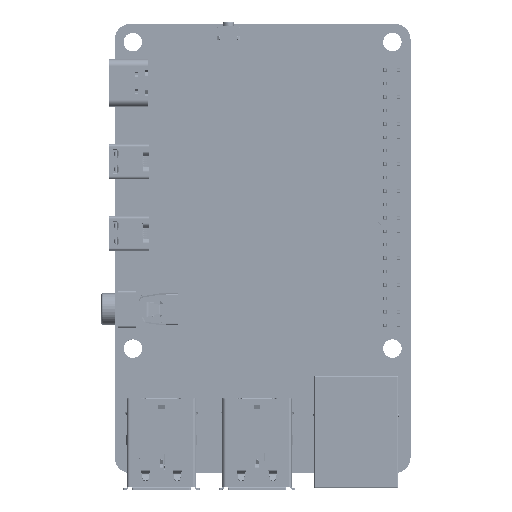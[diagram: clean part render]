
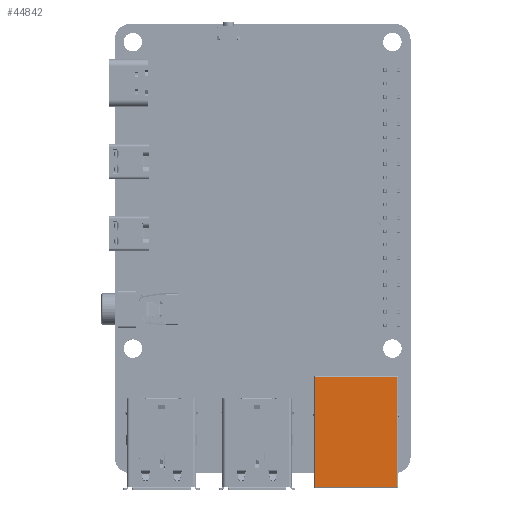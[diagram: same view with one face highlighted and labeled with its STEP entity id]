
A CAD part, top view. The second image highlights one B-rep face of the part: STEP entity #44842.
In plain terms, the highlighted planar face has unit normal (0, 0, 1) as drawn and (0, 1, 0) by its records, which use the part's own axes.
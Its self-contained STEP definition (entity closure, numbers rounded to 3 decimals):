
#40156 = CYLINDRICAL_SURFACE('',#40157,0.23);
#40157 = AXIS2_PLACEMENT_3D('',#40158,#40159,#40160);
#40158 = CARTESIAN_POINT('',(-29.272,6.42,0.23));
#40159 = DIRECTION('',(1.,0.,0.));
#40160 = DIRECTION('',(0.,0.,-1.));
#44032 = CYLINDRICAL_SURFACE('',#44033,0.23);
#44033 = AXIS2_PLACEMENT_3D('',#44034,#44035,#44036);
#44034 = CARTESIAN_POINT('',(-7.735,6.42,48.952));
#44035 = DIRECTION('',(0.,0.,-1.));
#44036 = DIRECTION('',(-1.,0.,0.));
#44638 = VERTEX_POINT('',#44639);
#44639 = CARTESIAN_POINT('',(-7.735,6.65,21.02));
#44688 = EDGE_CURVE('',#44689,#44638,#44691,.T.);
#44689 = VERTEX_POINT('',#44690);
#44690 = CARTESIAN_POINT('',(-7.735,6.65,0.23));
#44691 = SURFACE_CURVE('',#44692,(#44696,#44703),.PCURVE_S1.);
#44692 = LINE('',#44693,#44694);
#44693 = CARTESIAN_POINT('',(-7.735,6.65,0.23));
#44694 = VECTOR('',#44695,1.);
#44695 = DIRECTION('',(0.,0.,1.));
#44696 = PCURVE('',#44032,#44697);
#44697 = DEFINITIONAL_REPRESENTATION('',(#44698),#44702);
#44698 = LINE('',#44699,#44700);
#44699 = CARTESIAN_POINT('',(1.571,48.722));
#44700 = VECTOR('',#44701,1.);
#44701 = DIRECTION('',(0.,-1.));
#44702 = ( GEOMETRIC_REPRESENTATION_CONTEXT(2) 
PARAMETRIC_REPRESENTATION_CONTEXT() REPRESENTATION_CONTEXT('2D SPACE',''
  ) );
#44703 = PCURVE('',#44704,#44709);
#44704 = PLANE('',#44705);
#44705 = AXIS2_PLACEMENT_3D('',#44706,#44707,#44708);
#44706 = CARTESIAN_POINT('',(7.965,6.65,0.));
#44707 = DIRECTION('',(0.,1.,0.));
#44708 = DIRECTION('',(-1.,0.,0.));
#44709 = DEFINITIONAL_REPRESENTATION('',(#44710),#44714);
#44710 = LINE('',#44711,#44712);
#44711 = CARTESIAN_POINT('',(15.7,0.23));
#44712 = VECTOR('',#44713,1.);
#44713 = DIRECTION('',(0.,1.));
#44714 = ( GEOMETRIC_REPRESENTATION_CONTEXT(2) 
PARAMETRIC_REPRESENTATION_CONTEXT() REPRESENTATION_CONTEXT('2D SPACE',''
  ) );
#44792 = VERTEX_POINT('',#44793);
#44793 = CARTESIAN_POINT('',(7.735,6.65,0.23));
#44822 = EDGE_CURVE('',#44792,#44689,#44823,.T.);
#44823 = SURFACE_CURVE('',#44824,(#44828,#44835),.PCURVE_S1.);
#44824 = LINE('',#44825,#44826);
#44825 = CARTESIAN_POINT('',(7.735,6.65,0.23));
#44826 = VECTOR('',#44827,1.);
#44827 = DIRECTION('',(-1.,0.,0.));
#44828 = PCURVE('',#40156,#44829);
#44829 = DEFINITIONAL_REPRESENTATION('',(#44830),#44834);
#44830 = LINE('',#44831,#44832);
#44831 = CARTESIAN_POINT('',(1.571,37.007));
#44832 = VECTOR('',#44833,1.);
#44833 = DIRECTION('',(0.,-1.));
#44834 = ( GEOMETRIC_REPRESENTATION_CONTEXT(2) 
PARAMETRIC_REPRESENTATION_CONTEXT() REPRESENTATION_CONTEXT('2D SPACE',''
  ) );
#44835 = PCURVE('',#44704,#44836);
#44836 = DEFINITIONAL_REPRESENTATION('',(#44837),#44841);
#44837 = LINE('',#44838,#44839);
#44838 = CARTESIAN_POINT('',(0.23,0.23));
#44839 = VECTOR('',#44840,1.);
#44840 = DIRECTION('',(1.,0.));
#44841 = ( GEOMETRIC_REPRESENTATION_CONTEXT(2) 
PARAMETRIC_REPRESENTATION_CONTEXT() REPRESENTATION_CONTEXT('2D SPACE',''
  ) );
#44842 = ADVANCED_FACE('',(#44843),#44704,.T.);
#44843 = FACE_BOUND('',#44844,.F.);
#44844 = EDGE_LOOP('',(#44845,#44873,#44899,#44900));
#44845 = ORIENTED_EDGE('',*,*,#44846,.F.);
#44846 = EDGE_CURVE('',#44847,#44792,#44849,.T.);
#44847 = VERTEX_POINT('',#44848);
#44848 = CARTESIAN_POINT('',(7.735,6.65,21.02));
#44849 = SURFACE_CURVE('',#44850,(#44854,#44861),.PCURVE_S1.);
#44850 = LINE('',#44851,#44852);
#44851 = CARTESIAN_POINT('',(7.735,6.65,21.02));
#44852 = VECTOR('',#44853,1.);
#44853 = DIRECTION('',(0.,0.,-1.));
#44854 = PCURVE('',#44704,#44855);
#44855 = DEFINITIONAL_REPRESENTATION('',(#44856),#44860);
#44856 = LINE('',#44857,#44858);
#44857 = CARTESIAN_POINT('',(0.23,21.02));
#44858 = VECTOR('',#44859,1.);
#44859 = DIRECTION('',(0.,-1.));
#44860 = ( GEOMETRIC_REPRESENTATION_CONTEXT(2) 
PARAMETRIC_REPRESENTATION_CONTEXT() REPRESENTATION_CONTEXT('2D SPACE',''
  ) );
#44861 = PCURVE('',#44862,#44867);
#44862 = CYLINDRICAL_SURFACE('',#44863,0.23);
#44863 = AXIS2_PLACEMENT_3D('',#44864,#44865,#44866);
#44864 = CARTESIAN_POINT('',(7.735,6.42,48.952));
#44865 = DIRECTION('',(0.,0.,-1.));
#44866 = DIRECTION('',(0.,1.,0.));
#44867 = DEFINITIONAL_REPRESENTATION('',(#44868),#44872);
#44868 = LINE('',#44869,#44870);
#44869 = CARTESIAN_POINT('',(0.,27.932));
#44870 = VECTOR('',#44871,1.);
#44871 = DIRECTION('',(0.,1.));
#44872 = ( GEOMETRIC_REPRESENTATION_CONTEXT(2) 
PARAMETRIC_REPRESENTATION_CONTEXT() REPRESENTATION_CONTEXT('2D SPACE',''
  ) );
#44873 = ORIENTED_EDGE('',*,*,#44874,.F.);
#44874 = EDGE_CURVE('',#44638,#44847,#44875,.T.);
#44875 = SURFACE_CURVE('',#44876,(#44880,#44887),.PCURVE_S1.);
#44876 = LINE('',#44877,#44878);
#44877 = CARTESIAN_POINT('',(-7.735,6.65,21.02));
#44878 = VECTOR('',#44879,1.);
#44879 = DIRECTION('',(1.,0.,0.));
#44880 = PCURVE('',#44704,#44881);
#44881 = DEFINITIONAL_REPRESENTATION('',(#44882),#44886);
#44882 = LINE('',#44883,#44884);
#44883 = CARTESIAN_POINT('',(15.7,21.02));
#44884 = VECTOR('',#44885,1.);
#44885 = DIRECTION('',(-1.,0.));
#44886 = ( GEOMETRIC_REPRESENTATION_CONTEXT(2) 
PARAMETRIC_REPRESENTATION_CONTEXT() REPRESENTATION_CONTEXT('2D SPACE',''
  ) );
#44887 = PCURVE('',#44888,#44893);
#44888 = CYLINDRICAL_SURFACE('',#44889,0.23);
#44889 = AXIS2_PLACEMENT_3D('',#44890,#44891,#44892);
#44890 = CARTESIAN_POINT('',(29.272,6.42,21.02));
#44891 = DIRECTION('',(-1.,0.,0.));
#44892 = DIRECTION('',(0.,0.,1.));
#44893 = DEFINITIONAL_REPRESENTATION('',(#44894),#44898);
#44894 = LINE('',#44895,#44896);
#44895 = CARTESIAN_POINT('',(1.571,37.007));
#44896 = VECTOR('',#44897,1.);
#44897 = DIRECTION('',(0.,-1.));
#44898 = ( GEOMETRIC_REPRESENTATION_CONTEXT(2) 
PARAMETRIC_REPRESENTATION_CONTEXT() REPRESENTATION_CONTEXT('2D SPACE',''
  ) );
#44899 = ORIENTED_EDGE('',*,*,#44688,.F.);
#44900 = ORIENTED_EDGE('',*,*,#44822,.F.);
